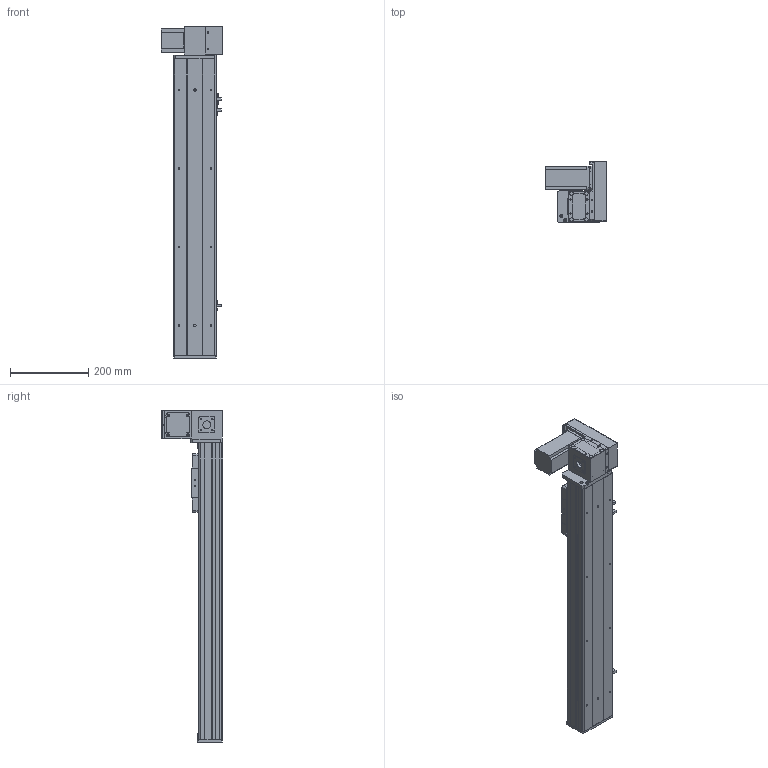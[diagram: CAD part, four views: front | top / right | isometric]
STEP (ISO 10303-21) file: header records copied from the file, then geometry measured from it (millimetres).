
FILE_DESCRIPTION (( 'STEP AP203' ), '1' );
FILE_NAME ('Y10CB-D90-S500-UR-P400W.STEP', '2020-02-16T03:07:25', ( '微软用户' ), ( '微软中国' ), 'SwSTEP 2.0', 'SolidWorks 2017', '' );
FILE_SCHEMA (( 'CONFIG_CONTROL_DESIGN' ));
Length unit declared in the file: millimetre
Products named in the file (18): 0B-源倛裔啣; Y10B--々湍喘謫眊--666; 0B-埴倛裔啣; Y10B-耜蚾蟀諉啣----; 10CB-詩湍-; 00B-俋欶BM--; Y10CB- 掛极耜裔啣-毀---; 0CB-雄赽釱---; Y10CB-D90-S500-UR-P400W; Y10C---詩湍揤啣; 0Cb-俋欶---; 10CB9-掛极; Y10B-々湍喘謫眊楊擘啣--; 10CB-耜裔; 0B-萇儂楊擘啣; Y135C-陔俋离換覜結え-; san松下电机400不带刹车----; Y100-135俋离換覜ん--
Assembly tree (21 placements, depth 2):
  Y10CB-D90-S500-UR-P400W
    0CB-雄赽釱---
    0Cb-俋欶---
    Y10B-々湍喘謫眊楊擘啣--
    0B-萇儂楊擘啣
    san松下电机400不带刹车----
    0B-源倛裔啣
    0B-埴倛裔啣
    10CB-詩湍-
    Y10CB- 掛极耜裔啣-毀---  x2
    Y10C---詩湍揤啣  x2
    10CB9-掛极
    10CB-耜裔
    Y135C-陔俋离換覜結え-
    Y100-135俋离換覜ん--  x3
    Y10B--々湍喘謫眊--666
    Y10B-耜蚾蟀諉啣----
    00B-俋欶BM--
Bounding box: 157 x 155.5 x 846 mm (x, y, z)
Volume: 2263578.6 mm3; surface area: 971255.8 mm2
Topology: 21 solids, 21 shells, 954 faces, 2523 edges, 1658 vertices
Faces by surface type: plane 471, cylinder 459, cone 24
Entity records: 29412 total; most frequent: CARTESIAN_POINT 5025, DIRECTION 4794, ORIENTED_EDGE 4516, EDGE_CURVE 2258, AXIS2_PLACEMENT_3D 1717, VERTEX_POINT 1484, LINE 1360, VECTOR 1360
